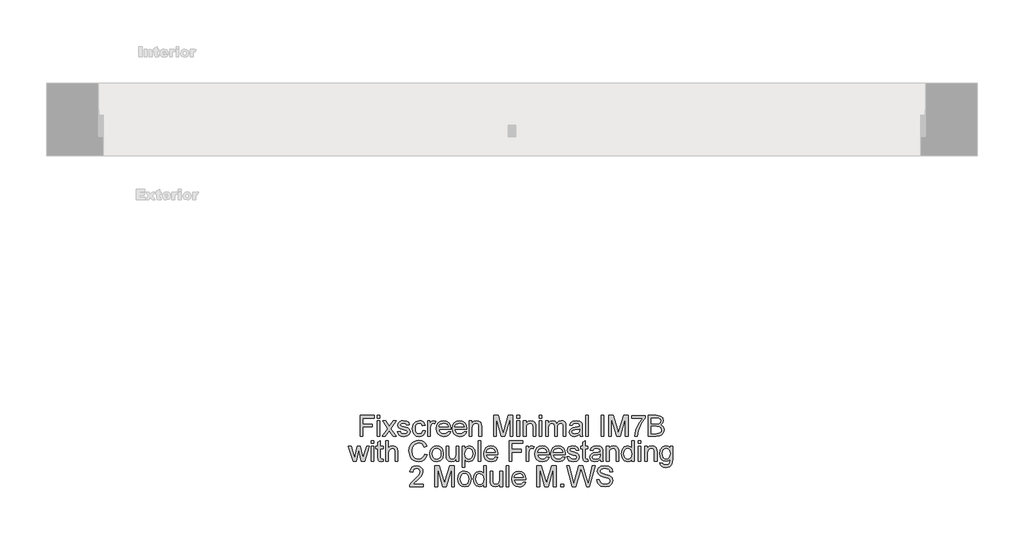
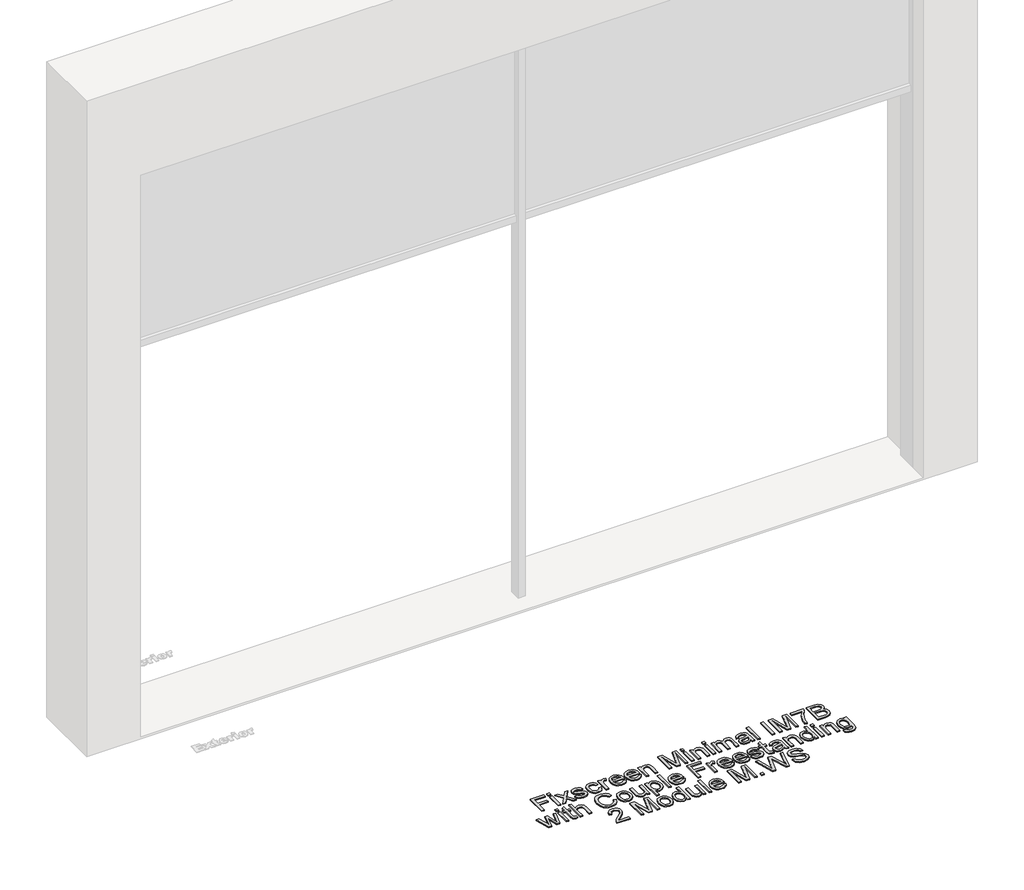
# One storey, part 2 of 14: 1 proxy.
"""IFC4 building model written with IfcOpenShell, lengths in millimetres."""

from ifc_helpers import new_model, si_unit, origin, origin_with_axes, place, context, project, spatial, polyline, outline, extrude, element, save

model = new_model("IFC4")

# Units and contexts
model_context = context("Model", 3, world=origin())
ifc_project = project(units=[si_unit("LENGTHUNIT", "METRE", prefix="MILLI")], contexts=[model_context])

# Site, building, storey
site = spatial("IfcSite", under=ifc_project)
building = spatial("IfcBuilding", under=site)
storey = spatial("IfcBuildingStorey", under=building, Name="Fixscreen Mini CF Overview Top", Elevation=0.0)

# Proxy
placement = place(None, origin())
element("IfcBuildingElementProxy", 1, Name="100mm Arial", ObjectType="100mm Arial", at=placement, inside=storey, context=model_context, shape_type="SweptSolid", body=[
    extrude(outline(polyline([(-8278.0016638, -2523.9021098), (-8278.0016638, -2423.4457997), (-8210.5075804, -2423.4457997), (-8210.5075804, -2436.0028384), (-8265.444625, -2436.0028384), (-8265.444625, -2465.8258055), (-8218.3557296, -2465.8258055), (-8218.3557296, -2478.3828443), (-8265.444625, -2478.3828443), (-8265.444625, -2523.9021098), (-8278.0016638, -2523.9021098)])), origin_with_axes(), (0.0, 0.0, 1.0), 5.0),
    extrude(outline(polyline([(-8194.811282, -2523.9021098), (-8194.811282, -2450.129507), (-8182.2542432, -2450.129507), (-8182.2542432, -2523.9021098), (-8194.811282, -2523.9021098)])), origin_with_axes(), (0.0, 0.0, 1.0), 5.0),
    extrude(outline(polyline([(-8194.811282, -2436.0028384), (-8194.811282, -2423.4457997), (-8182.2542432, -2423.4457997), (-8182.2542432, -2436.0028384), (-8194.811282, -2436.0028384)])), origin_with_axes(), (0.0, 0.0, 1.0), 5.0),
    extrude(outline(polyline([(-8171.2668343, -2523.9021098), (-8144.4359741, -2486.8196047), (-8169.6972044, -2450.129507), (-8154.5895171, -2450.129507), (-8142.4003604, -2467.7878428), (-8136.7104522, -2476.1265014), (-8131.7808334, -2469.3084217), (-8117.8994195, -2450.129507), (-8102.7917322, -2450.129507), (-8129.3282868, -2486.8196047), (-8103.7727509, -2523.9021098), (-8118.8804381, -2523.9021098), (-8134.2579055, -2501.6084609), (-8137.0783342, -2497.5372335), (-8156.159147, -2523.9021098), (-8171.2668343, -2523.9021098)])), origin_with_axes(), (0.0, 0.0, 1.0), 5.0),
    extrude(outline(polyline([(-8097.4942315, -2501.927292), (-8084.9371927, -2500.3576621), (-8079.1246572, -2509.6773393), (-8065.807329, -2512.9147009), (-8053.0050355, -2509.9471195), (-8048.8357063, -2502.981887), (-8053.029561, -2497.3410298), (-8065.9544818, -2493.7603117), (-8084.8636163, -2487.6166824), (-8093.1164358, -2480.4429835), (-8095.9246016, -2470.3139659), (-8093.6682587, -2460.9575004), (-8087.5123667, -2453.808327), (-8079.5293274, -2450.0927188), (-8068.7258595, -2448.5598772), (-8053.4464939, -2451.0246866), (-8043.7344093, -2457.6956134), (-8039.4179272, -2468.9650652), (-8051.974966, -2470.534695), (-8056.6961182, -2463.6062508), (-8067.7448408, -2461.116916), (-8079.7623193, -2463.4958862), (-8083.3675629, -2469.0386416), (-8081.8715094, -2472.6929361), (-8077.1871454, -2475.4643138), (-8066.3714147, -2478.1375896), (-8047.9405267, -2484.048227), (-8039.381139, -2490.7436793), (-8036.2786675, -2501.6575118), (-8039.9206992, -2513.6749903), (-8050.4298616, -2522.3937936), (-8065.9790072, -2525.4717397), (-8078.6402792, -2523.9879489), (-8087.8802487, -2519.5365768), (-8094.0484035, -2512.1666742), (-8097.4942315, -2501.927292)])), origin_with_axes(), (0.0, 0.0, 1.0), 5.0),
    extrude(outline(polyline([(-7975.0631035, -2497.2184024), (-7962.5060647, -2498.7880323), (-7966.0070751, -2509.9563165), (-7972.5860314, -2518.3961426), (-7981.6236657, -2523.7028404), (-7992.5007101, -2525.4717397), (-8005.8578922, -2523.0038646), (-8016.3026752, -2515.6002395), (-8023.0441127, -2503.5858266), (-8025.2912586, -2487.2855886), (-8021.4530231, -2466.4266794), (-8009.7543756, -2453.0235121), (-7992.6723883, -2448.5598772), (-7982.0620585, -2450.0927188), (-7973.5793128, -2454.6912438), (-7967.4939314, -2462.1101974), (-7964.0756946, -2472.1043249), (-7976.6327333, -2473.6739547), (-7982.4575316, -2464.2684384), (-7992.5742865, -2461.116916), (-8000.6891501, -2462.6681517), (-8007.1301507, -2467.321859), (-8011.3332025, -2475.3294237), (-8012.7342198, -2486.942232), (-8011.3638594, -2498.7113902), (-8007.2527781, -2506.7465461), (-8000.9282734, -2511.3726622), (-7992.917643, -2512.9147009), (-7981.0841055, -2509.0642027), (-7975.0631035, -2497.2184024)])), origin_with_axes(), (0.0, 0.0, 1.0), 5.0),
    extrude(outline(polyline([(-7951.5186558, -2523.9021098), (-7951.5186558, -2450.129507), (-7940.5312469, -2450.129507), (-7940.5312469, -2461.0433396), (-7932.7321486, -2450.9878984), (-7924.8839994, -2448.5598772), (-7912.2779097, -2452.4349009), (-7916.4717644, -2463.6920899), (-7925.3009323, -2461.116916), (-7932.4010548, -2463.5939881), (-7936.9260033, -2470.4611186), (-7938.961617, -2485.1273475), (-7938.961617, -2523.9021098), (-7951.5186558, -2523.9021098)])), origin_with_axes(), (0.0, 0.0, 1.0), 5.0),
    extrude(outline(polyline([(-7852.7791283, -2501.927292), (-7840.4673442, -2503.4969218), (-7844.9033879, -2512.7736795), (-7851.9820506, -2519.7082551), (-7861.5439168, -2524.0308685), (-7873.429571, -2525.4717397), (-7888.1632449, -2522.9854705), (-7899.5001417, -2515.5266631), (-7906.7290229, -2503.5796953), (-7909.13865, -2487.6289451), (-7906.7044974, -2471.1417003), (-7899.4020398, -2458.8115221), (-7888.2184272, -2451.1227884), (-7874.1408095, -2448.5598772), (-7860.5015845, -2451.1166571), (-7849.6030804, -2458.7869967), (-7842.4569727, -2471.0926494), (-7840.0749367, -2487.5553687), (-7840.1485131, -2490.939883), (-7896.5816112, -2490.939883), (-7894.4080417, -2500.339268), (-7889.3588614, -2507.2493182), (-7882.0717322, -2511.4983552), (-7873.1843163, -2512.9147009), (-7860.8725322, -2510.290476), (-7852.7791283, -2501.927292)]), holes=[polyline([(-7896.5816112, -2478.3828443), (-7852.6319755, -2478.3828443), (-7857.6596961, -2467.0030279), (-7864.9805478, -2462.588444), (-7874.1898604, -2461.116916), (-7889.653167, -2465.8135428), (-7894.5184063, -2471.3041816), (-7896.5816112, -2478.3828443)])]), origin_with_axes(), (0.0, 0.0, 1.0), 5.0),
    extrude(outline(polyline([(-7775.8672658, -2501.927292), (-7763.5554817, -2503.4969218), (-7767.9915255, -2512.7736795), (-7775.0701882, -2519.7082551), (-7784.6320544, -2524.0308685), (-7796.5177085, -2525.4717397), (-7811.2513824, -2522.9854705), (-7822.5882792, -2515.5266631), (-7829.8171604, -2503.5796953), (-7832.2267875, -2487.6289451), (-7829.792635, -2471.1417003), (-7822.4901774, -2458.8115221), (-7811.3065647, -2451.1227884), (-7797.228947, -2448.5598772), (-7783.5897221, -2451.1166571), (-7772.691218, -2458.7869967), (-7765.5451102, -2471.0926494), (-7763.1630743, -2487.5553687), (-7763.2366507, -2490.939883), (-7819.6697487, -2490.939883), (-7817.4961793, -2500.339268), (-7812.4469989, -2507.2493182), (-7805.1598697, -2511.4983552), (-7796.2724538, -2512.9147009), (-7783.9606697, -2510.290476), (-7775.8672658, -2501.927292)]), holes=[polyline([(-7819.6697487, -2478.3828443), (-7775.720113, -2478.3828443), (-7780.7478336, -2467.0030279), (-7788.0686854, -2462.588444), (-7797.277998, -2461.116916), (-7812.7413045, -2465.8135428), (-7817.6065439, -2471.3041816), (-7819.6697487, -2478.3828443)])]), origin_with_axes(), (0.0, 0.0, 1.0), 5.0),
    extrude(outline(polyline([(-7750.6060355, -2523.9021098), (-7750.6060355, -2450.129507), (-7738.0489967, -2450.129507), (-7738.0489967, -2460.4302029), (-7728.4472767, -2451.5274586), (-7715.3384149, -2448.5598772), (-7703.4803519, -2450.9511102), (-7695.386948, -2457.2296296), (-7691.6222889, -2466.4634676), (-7690.9601014, -2478.6035735), (-7690.9601014, -2523.9021098), (-7703.5171401, -2523.9021098), (-7703.5171401, -2480.2958307), (-7704.9641426, -2469.1857944), (-7710.0777024, -2463.3119452), (-7718.6984038, -2461.116916), (-7732.3223003, -2466.0465347), (-7736.6173226, -2473.1895768), (-7738.0489967, -2484.7594655), (-7738.0489967, -2523.9021098), (-7750.6060355, -2523.9021098)])), origin_with_axes(), (0.0, 0.0, 1.0), 5.0),
    extrude(outline(polyline([(-7632.8837971, -2523.9021098), (-7632.8837971, -2423.4457997), (-7611.2768612, -2423.4457997), (-7590.7245204, -2494.250821), (-7586.5797166, -2509.0396772), (-7582.0915563, -2493.0245477), (-7561.882572, -2423.4457997), (-7540.2756361, -2423.4457997), (-7540.2756361, -2523.9021098), (-7552.8326749, -2523.9021098), (-7552.8326749, -2436.0028384), (-7578.0693798, -2523.9021098), (-7595.0900534, -2523.9021098), (-7620.3267583, -2436.0028384), (-7620.3267583, -2523.9021098), (-7632.8837971, -2523.9021098)])), origin_with_axes(), (0.0, 0.0, 1.0), 5.0),
    extrude(outline(polyline([(-7519.8704481, -2436.0028384), (-7519.8704481, -2423.4457997), (-7507.3134094, -2423.4457997), (-7507.3134094, -2436.0028384), (-7519.8704481, -2436.0028384)])), origin_with_axes(), (0.0, 0.0, 1.0), 5.0),
    extrude(outline(polyline([(-7519.8704481, -2523.9021098), (-7519.8704481, -2450.129507), (-7507.3134094, -2450.129507), (-7507.3134094, -2523.9021098), (-7519.8704481, -2523.9021098)])), origin_with_axes(), (0.0, 0.0, 1.0), 5.0),
    extrude(outline(polyline([(-7488.4778512, -2523.9021098), (-7488.4778512, -2450.129507), (-7475.9208124, -2450.129507), (-7475.9208124, -2460.4302029), (-7466.3190924, -2451.5274586), (-7453.2102306, -2448.5598772), (-7441.3521676, -2450.9511102), (-7433.2587637, -2457.2296296), (-7429.4941047, -2466.4634676), (-7428.8319171, -2478.6035735), (-7428.8319171, -2523.9021098), (-7441.3889558, -2523.9021098), (-7441.3889558, -2480.2958307), (-7442.8359583, -2469.1857944), (-7447.9495181, -2463.3119452), (-7456.5702195, -2461.116916), (-7470.1941161, -2466.0465347), (-7474.4891383, -2473.1895768), (-7475.9208124, -2484.7594655), (-7475.9208124, -2523.9021098), (-7488.4778512, -2523.9021098)])), origin_with_axes(), (0.0, 0.0, 1.0), 5.0),
    extrude(outline(polyline([(-7411.5659888, -2523.9021098), (-7411.5659888, -2450.129507), (-7399.00895, -2450.129507), (-7399.00895, -2523.9021098), (-7411.5659888, -2523.9021098)])), origin_with_axes(), (0.0, 0.0, 1.0), 5.0),
    extrude(outline(polyline([(-7411.5659888, -2436.0028384), (-7411.5659888, -2423.4457997), (-7399.00895, -2423.4457997), (-7399.00895, -2436.0028384), (-7411.5659888, -2436.0028384)])), origin_with_axes(), (0.0, 0.0, 1.0), 5.0),
    extrude(outline(polyline([(-7380.1733918, -2523.9021098), (-7380.1733918, -2450.129507), (-7367.6163531, -2450.129507), (-7367.6163531, -2462.2696129), (-7358.9833889, -2452.3245363), (-7346.6961303, -2448.5598772), (-7334.114566, -2452.3981127), (-7327.1983845, -2463.1525297), (-7317.4004607, -2452.2080403), (-7305.027363, -2448.5598772), (-7295.5881241, -2450.0773904), (-7288.6075632, -2454.6299301), (-7284.2941468, -2462.3401236), (-7282.8563414, -2473.3305982), (-7282.8563414, -2523.9021098), (-7295.4133801, -2523.9021098), (-7295.4133801, -2478.7262008), (-7296.5783398, -2468.2415639), (-7300.79672, -2463.0789533), (-7307.9704189, -2461.116916), (-7320.3189912, -2466.1446366), (-7324.0070082, -2472.6868047), (-7325.2363472, -2482.257868), (-7325.2363472, -2523.9021098), (-7337.793386, -2523.9021098), (-7337.793386, -2477.3282492), (-7340.6996538, -2465.1636179), (-7350.2277974, -2461.116916), (-7359.5229492, -2463.8147173), (-7365.7033667, -2471.7119174), (-7367.6163531, -2486.6969774), (-7367.6163531, -2523.9021098), (-7380.1733918, -2523.9021098)])), origin_with_axes(), (0.0, 0.0, 1.0), 5.0),
    extrude(outline(polyline([(-7216.9318878, -2514.4843307), (-7229.1087819, -2522.9946676), (-7242.5610002, -2525.4717397), (-7253.0548341, -2523.9818176), (-7260.7956844, -2519.5120513), (-7265.5689533, -2512.7246285), (-7267.1600429, -2504.2817367), (-7264.7565472, -2494.3489229), (-7258.4412396, -2487.1384358), (-7249.6488599, -2483.0181574), (-7238.7840784, -2481.1296965), (-7217.0054642, -2476.8132144), (-7216.9318878, -2474.0173113), (-7220.3899786, -2464.746685), (-7234.2713925, -2461.116916), (-7246.9755841, -2463.5326744), (-7253.0333743, -2472.1043249), (-7265.5904131, -2470.534695), (-7260.1580223, -2458.2719619), (-7249.2196643, -2451.0860002), (-7232.6527118, -2448.5598772), (-7217.4346599, -2450.7916946), (-7208.8384839, -2456.3957637), (-7204.9879857, -2464.9183633), (-7204.3748491, -2475.9057722), (-7204.3748491, -2491.5284942), (-7203.7371869, -2513.3438966), (-7201.2355894, -2523.9021098), (-7213.7926281, -2523.9021098), (-7216.9318878, -2514.4843307)]), holes=[polyline([(-7216.9318878, -2489.3702532), (-7237.189923, -2493.2207514), (-7247.993391, -2495.2563651), (-7252.8862215, -2498.5673031), (-7254.6030041, -2503.39882), (-7250.8628705, -2510.1923741), (-7239.8877243, -2512.9147009), (-7227.1835328, -2509.9103313), (-7218.992027, -2502.6385305), (-7217.0054642, -2492.9264458), (-7216.9318878, -2489.3702532)])]), origin_with_axes(), (0.0, 0.0, 1.0), 5.0),
    extrude(outline(polyline([(-7187.1089208, -2523.9021098), (-7187.1089208, -2423.4457997), (-7174.551882, -2423.4457997), (-7174.551882, -2523.9021098), (-7187.1089208, -2523.9021098)])), origin_with_axes(), (0.0, 0.0, 1.0), 5.0),
    extrude(outline(polyline([(-7113.336318, -2523.9021098), (-7113.336318, -2423.4457997), (-7100.7792792, -2423.4457997), (-7100.7792792, -2523.9021098), (-7113.336318, -2523.9021098)])), origin_with_axes(), (0.0, 0.0, 1.0), 5.0),
    extrude(outline(polyline([(-7075.6652017, -2523.9021098), (-7075.6652017, -2423.4457997), (-7054.0582658, -2423.4457997), (-7033.505925, -2494.250821), (-7029.3611212, -2509.0396772), (-7024.8729609, -2493.0245477), (-7004.6639766, -2423.4457997), (-6983.0570408, -2423.4457997), (-6983.0570408, -2523.9021098), (-6995.6140795, -2523.9021098), (-6995.6140795, -2436.0028384), (-7020.8507844, -2523.9021098), (-7037.8714581, -2523.9021098), (-7063.1081629, -2436.0028384), (-7063.1081629, -2523.9021098), (-7075.6652017, -2523.9021098)])), origin_with_axes(), (0.0, 0.0, 1.0), 5.0),
    extrude(outline(polyline([(-6965.7911125, -2437.5724683), (-6965.7911125, -2425.0154295), (-6899.8666589, -2425.0154295), (-6899.8666589, -2435.1689726), (-6918.567327, -2462.1837738), (-6932.8779366, -2496.6052658), (-6937.5377752, -2523.9021098), (-6950.094814, -2523.9021098), (-6945.1038816, -2495.5751962), (-6931.4064087, -2463.5571999), (-6912.4236977, -2437.5724683), (-6965.7911125, -2437.5724683)])), origin_with_axes(), (0.0, 0.0, 1.0), 5.0),
    extrude(outline(polyline([(-6884.1703605, -2523.9021098), (-6884.1703605, -2423.4457997), (-6845.8370566, -2423.4457997), (-6827.0628121, -2426.4011184), (-6815.9773013, -2435.4878036), (-6811.9673875, -2448.339148), (-6815.3396392, -2460.0745837), (-6825.5299704, -2468.9650652), (-6813.1568727, -2478.3337933), (-6808.8281279, -2493.9565154), (-6811.7834466, -2507.4577846), (-6819.1042983, -2517.0717674), (-6830.0303935, -2522.1730644), (-6846.1313622, -2523.9021098), (-6884.1703605, -2523.9021098)]), holes=[polyline([(-6871.6133217, -2464.2561757), (-6848.6820107, -2464.2561757), (-6835.291106, -2463.1770551), (-6827.2344903, -2458.5294793), (-6824.5244263, -2450.3502362), (-6827.0505494, -2442.1587305), (-6834.2855619, -2437.3149509), (-6850.4233188, -2436.0028384), (-6871.6133217, -2436.0028384), (-6871.6133217, -2464.2561757)]), polyline([(-6871.6133217, -2511.345071), (-6845.861582, -2511.345071), (-6836.5419048, -2510.8545617), (-6828.6569674, -2508.1199722), (-6823.4330431, -2502.5404286), (-6821.3851666, -2494.0791427), (-6823.7886623, -2484.3180071), (-6831.5754979, -2478.4932089), (-6847.0878554, -2476.8132144), (-6871.6133217, -2476.8132144), (-6871.6133217, -2511.345071)])]), origin_with_axes(), (0.0, 0.0, 1.0), 5.0),
    extrude(outline(polyline([(-8312.0675365, -2645.8769277), (-8334.5083383, -2572.1043249), (-8321.4607902, -2572.1043249), (-8308.7320731, -2615.1465183), (-8304.9306258, -2630.5239857), (-8301.8158916, -2615.7106041), (-8291.686874, -2572.1043249), (-8276.7263395, -2572.1043249), (-8266.6463729, -2615.5879767), (-8263.8749952, -2629.0034068), (-8259.9018696, -2614.8522127), (-8247.1486271, -2572.1043249), (-8234.0520281, -2572.1043249), (-8256.6645081, -2645.8769277), (-8271.8457717, -2645.8769277), (-8281.48428, -2602.614005), (-8284.2801832, -2589.1249985), (-8296.7145946, -2645.8769277), (-8312.0675365, -2645.8769277)])), origin_with_axes(), (0.0, 0.0, 1.0), 5.0),
    extrude(outline(polyline([(-8225.419064, -2645.8769277), (-8225.419064, -2572.1043249), (-8212.8620252, -2572.1043249), (-8212.8620252, -2645.8769277), (-8225.419064, -2645.8769277)])), origin_with_axes(), (0.0, 0.0, 1.0), 5.0),
    extrude(outline(polyline([(-8225.419064, -2557.9776563), (-8225.419064, -2545.4206175), (-8212.8620252, -2545.4206175), (-8212.8620252, -2557.9776563), (-8225.419064, -2557.9776563)])), origin_with_axes(), (0.0, 0.0, 1.0), 5.0),
    extrude(outline(polyline([(-8167.3427596, -2635.4045535), (-8165.7731298, -2646.2448097), (-8175.1663834, -2647.4465575), (-8185.6878085, -2645.3618929), (-8190.9362583, -2639.8927139), (-8192.4568372, -2625.6434179), (-8192.4568372, -2584.6613637), (-8201.8746163, -2584.6613637), (-8201.8746163, -2572.1043249), (-8192.4568372, -2572.1043249), (-8192.4568372, -2554.176209), (-8179.8997984, -2546.7940436), (-8179.8997984, -2572.1043249), (-8167.3427596, -2572.1043249), (-8167.3427596, -2584.6613637), (-8179.8997984, -2584.6613637), (-8179.8997984, -2625.2755359), (-8179.2376108, -2631.750259), (-8177.0916325, -2634.0433901), (-8172.8119386, -2634.8895187), (-8167.3427596, -2635.4045535)])), origin_with_axes(), (0.0, 0.0, 1.0), 5.0),
    extrude(outline(polyline([(-8154.7857209, -2645.8769277), (-8154.7857209, -2545.4206175), (-8142.2286821, -2545.4206175), (-8142.2286821, -2582.3559698), (-8132.4368897, -2573.4900137), (-8120.3764916, -2570.534695), (-8106.2743484, -2573.7597939), (-8097.7149607, -2582.6748009), (-8095.1397867, -2599.1804397), (-8095.1397867, -2645.8769277), (-8107.6968255, -2645.8769277), (-8107.6968255, -2600.4802895), (-8111.6944765, -2587.2365376), (-8123.025242, -2583.0917338), (-8133.3136751, -2585.887637), (-8140.1808057, -2593.4660061), (-8142.2286821, -2606.6852324), (-8142.2286821, -2645.8769277), (-8154.7857209, -2645.8769277)])), origin_with_axes(), (0.0, 0.0, 1.0), 5.0),
    extrude(outline(polyline([(-7966.4301393, -2610.1678487), (-7953.8731006, -2613.4052102), (-7959.667242, -2628.0377166), (-7968.7600586, -2638.7277542), (-7980.7039608, -2645.2668567), (-7995.0513586, -2647.4465575), (-8009.6164199, -2645.7972199), (-8021.183243, -2640.8492071), (-8030.049199, -2632.7741973), (-8036.5116594, -2621.7438688), (-8041.772372, -2594.8884831), (-8040.2855156, -2580.2406484), (-8035.8249464, -2567.5916391), (-8028.6236563, -2557.3430598), (-8018.9146373, -2549.8965151), (-8007.3999309, -2545.3623695), (-7994.7815784, -2543.8509877), (-7981.0135948, -2545.8068936), (-7969.6307127, -2551.6746114), (-7960.9885515, -2561.0923905), (-7955.4427304, -2573.6984802), (-7967.9997692, -2576.6905871), (-7978.3004651, -2561.251806), (-7995.2720878, -2556.4080264), (-8014.9169863, -2561.7791036), (-8026.0147598, -2576.2000778), (-8029.2153332, -2594.8639577), (-8025.4261486, -2616.495419), (-8013.6293993, -2630.3155193), (-7996.3021574, -2634.8895187), (-7985.8205862, -2633.3321516), (-7977.0864545, -2628.6600503), (-7970.4921697, -2620.9222657), (-7966.4301393, -2610.1678487)])), origin_with_axes(), (0.0, 0.0, 1.0), 5.0),
    extrude(outline(polyline([(-7941.3160618, -2608.9906263), (-7938.5998664, -2591.2035318), (-7930.4512802, -2578.7016753), (-7920.3835763, -2572.5764401), (-7908.3293096, -2570.534695), (-7895.1376744, -2573.0209642), (-7884.6009209, -2580.4797717), (-7877.6939364, -2592.3225062), (-7875.3916083, -2607.9605567), (-7879.4628357, -2630.3032565), (-7891.3208987, -2642.9461344), (-7908.3293096, -2647.4465575), (-7921.6803603, -2644.9694854), (-7932.2048511, -2637.5382691), (-7939.0382591, -2625.4472142), (-7941.3160618, -2608.9906263)]), holes=[polyline([(-7928.759023, -2608.9661008), (-7927.3058892, -2620.3305888), (-7922.9464875, -2628.4270584), (-7916.3859253, -2633.2739036), (-7908.3293096, -2634.8895187), (-7900.3094821, -2633.2647066), (-7893.7611826, -2628.3902702), (-7889.4017809, -2620.1865017), (-7887.948647, -2608.5736933), (-7889.410978, -2597.5402992), (-7893.7979708, -2589.5541942), (-7900.3554673, -2584.7073489), (-7908.3293096, -2583.0917338), (-7916.3859253, -2584.7012175), (-7922.9464875, -2589.5296687), (-7927.3058892, -2597.6077442), (-7928.759023, -2608.9661008)])]), origin_with_axes(), (0.0, 0.0, 1.0), 5.0),
    extrude(outline(polyline([(-7814.1760443, -2645.8769277), (-7814.1760443, -2633.1972616), (-7824.0107563, -2643.8842335), (-7836.8375752, -2647.4465575), (-7848.6465872, -2644.9449599), (-7856.7890421, -2638.6664406), (-7860.5291757, -2629.4203397), (-7861.2649397, -2617.7462178), (-7861.2649397, -2572.1043249), (-7848.7079009, -2572.1043249), (-7848.7079009, -2611.8355804), (-7847.9476114, -2624.6378738), (-7842.9812045, -2632.1549292), (-7833.6247391, -2634.8895187), (-7823.1401022, -2632.0936156), (-7816.211658, -2624.4784583), (-7814.1760443, -2610.4866797), (-7814.1760443, -2572.1043249), (-7801.6190055, -2572.1043249), (-7801.6190055, -2645.8769277), (-7814.1760443, -2645.8769277)])), origin_with_axes(), (0.0, 0.0, 1.0), 5.0),
    extrude(outline(polyline([(-7784.3530772, -2674.1302649), (-7784.3530772, -2572.1043249), (-7771.7960384, -2572.1043249), (-7771.7960384, -2584.416109), (-7763.1140233, -2574.0050485), (-7751.3908504, -2570.534695), (-7735.4738228, -2575.3907374), (-7725.075025, -2589.0759476), (-7721.5678834, -2608.4265406), (-7725.5287462, -2628.7704149), (-7737.0311899, -2642.6273034), (-7752.9114293, -2647.4465575), (-7763.8375246, -2644.2214587), (-7771.7960384, -2636.0667411), (-7771.7960384, -2674.1302649), (-7784.3530772, -2674.1302649)]), holes=[polyline([(-7771.7960384, -2609.5792375), (-7770.4379407, -2620.8364265), (-7766.3636476, -2628.7091012), (-7760.3518427, -2633.3444144), (-7753.1812095, -2634.8895187), (-7745.8940803, -2633.2892321), (-7739.7289912, -2628.488372), (-7735.5259394, -2620.3275231), (-7734.1249221, -2608.6472697), (-7735.4922169, -2597.4513944), (-7739.5941011, -2589.4683551), (-7745.596709, -2584.6858891), (-7752.6661747, -2583.0917338), (-7759.7632315, -2584.7870567), (-7765.9957656, -2589.8730253), (-7770.3459702, -2598.190224), (-7771.7960384, -2609.5792375)])]), origin_with_axes(), (0.0, 0.0, 1.0), 5.0),
    extrude(outline(polyline([(-7707.4412147, -2645.8769277), (-7707.4412147, -2545.4206175), (-7694.884176, -2545.4206175), (-7694.884176, -2645.8769277), (-7707.4412147, -2645.8769277)])), origin_with_axes(), (0.0, 0.0, 1.0), 5.0),
    extrude(outline(polyline([(-7624.3979857, -2623.9021098), (-7612.0862016, -2625.4717397), (-7616.5222453, -2634.7484973), (-7623.600908, -2641.6830729), (-7633.1627742, -2646.0056864), (-7645.0484284, -2647.4465575), (-7659.7821023, -2644.9602884), (-7671.1189991, -2637.5014809), (-7678.3478803, -2625.5545131), (-7680.7575074, -2609.6037629), (-7678.3233548, -2593.1165182), (-7671.0208972, -2580.78634), (-7659.8372846, -2573.0976063), (-7645.7596669, -2570.534695), (-7632.1204419, -2573.0914749), (-7621.2219378, -2580.7618145), (-7614.07583, -2593.0674673), (-7611.6937941, -2609.5301865), (-7611.7673705, -2612.9147009), (-7668.2004686, -2612.9147009), (-7666.0268991, -2622.3140859), (-7660.9777188, -2629.224136), (-7653.6905896, -2633.4731731), (-7644.8031737, -2634.8895187), (-7632.4913896, -2632.2652938), (-7624.3979857, -2623.9021098)]), holes=[polyline([(-7668.2004686, -2600.3576621), (-7624.2508329, -2600.3576621), (-7629.2785535, -2588.9778457), (-7636.5994052, -2584.5632618), (-7645.8087178, -2583.0917338), (-7661.2720243, -2587.7883606), (-7666.1372637, -2593.2789994), (-7668.2004686, -2600.3576621)])]), origin_with_axes(), (0.0, 0.0, 1.0), 5.0),
    extrude(outline(polyline([(-7558.3263794, -2645.8769277), (-7558.3263794, -2545.4206175), (-7490.832296, -2545.4206175), (-7490.832296, -2557.9776563), (-7545.7693406, -2557.9776563), (-7545.7693406, -2587.8006234), (-7498.6804452, -2587.8006234), (-7498.6804452, -2600.3576621), (-7545.7693406, -2600.3576621), (-7545.7693406, -2645.8769277), (-7558.3263794, -2645.8769277)])), origin_with_axes(), (0.0, 0.0, 1.0), 5.0),
    extrude(outline(polyline([(-7475.1359975, -2645.8769277), (-7475.1359975, -2572.1043249), (-7464.1485886, -2572.1043249), (-7464.1485886, -2583.0181574), (-7456.3494903, -2572.9627162), (-7448.5013411, -2570.534695), (-7435.8952514, -2574.4097187), (-7440.0891061, -2585.6669078), (-7448.918274, -2583.0917338), (-7456.0183965, -2585.5688059), (-7460.543345, -2592.4359365), (-7462.5789588, -2607.1021654), (-7462.5789588, -2645.8769277), (-7475.1359975, -2645.8769277)])), origin_with_axes(), (0.0, 0.0, 1.0), 5.0),
    extrude(outline(polyline([(-7376.39647, -2623.9021098), (-7364.0846859, -2625.4717397), (-7368.5207296, -2634.7484973), (-7375.5993924, -2641.6830729), (-7385.1612586, -2646.0056864), (-7397.0469127, -2647.4465575), (-7411.7805866, -2644.9602884), (-7423.1174834, -2637.5014809), (-7430.3463646, -2625.5545131), (-7432.7559917, -2609.6037629), (-7430.3218391, -2593.1165182), (-7423.0193815, -2580.78634), (-7411.8357689, -2573.0976063), (-7397.7581512, -2570.534695), (-7384.1189262, -2573.0914749), (-7373.2204221, -2580.7618145), (-7366.0743144, -2593.0674673), (-7363.6922784, -2609.5301865), (-7363.7658548, -2612.9147009), (-7420.1989529, -2612.9147009), (-7418.0253835, -2622.3140859), (-7412.9762031, -2629.224136), (-7405.6890739, -2633.4731731), (-7396.801658, -2634.8895187), (-7384.4898739, -2632.2652938), (-7376.39647, -2623.9021098)]), holes=[polyline([(-7420.1989529, -2600.3576621), (-7376.2493172, -2600.3576621), (-7381.2770378, -2588.9778457), (-7388.5978895, -2584.5632618), (-7397.8072021, -2583.0917338), (-7413.2705087, -2587.7883606), (-7418.1357481, -2593.2789994), (-7420.1989529, -2600.3576621)])]), origin_with_axes(), (0.0, 0.0, 1.0), 5.0),
    extrude(outline(polyline([(-7299.4846076, -2623.9021098), (-7287.1728235, -2625.4717397), (-7291.6088672, -2634.7484973), (-7298.6875299, -2641.6830729), (-7308.2493961, -2646.0056864), (-7320.1350502, -2647.4465575), (-7334.8687241, -2644.9602884), (-7346.2056209, -2637.5014809), (-7353.4345022, -2625.5545131), (-7355.8441292, -2609.6037629), (-7353.4099767, -2593.1165182), (-7346.1075191, -2580.78634), (-7334.9239064, -2573.0976063), (-7320.8462887, -2570.534695), (-7307.2070638, -2573.0914749), (-7296.3085597, -2580.7618145), (-7289.1624519, -2593.0674673), (-7286.780416, -2609.5301865), (-7286.8539924, -2612.9147009), (-7343.2870904, -2612.9147009), (-7341.113521, -2622.3140859), (-7336.0643406, -2629.224136), (-7328.7772114, -2633.4731731), (-7319.8897956, -2634.8895187), (-7307.5780115, -2632.2652938), (-7299.4846076, -2623.9021098)]), holes=[polyline([(-7343.2870904, -2600.3576621), (-7299.3374548, -2600.3576621), (-7304.3651754, -2588.9778457), (-7311.6860271, -2584.5632618), (-7320.8953397, -2583.0917338), (-7336.3586462, -2587.7883606), (-7341.2238856, -2593.2789994), (-7343.2870904, -2600.3576621)])]), origin_with_axes(), (0.0, 0.0, 1.0), 5.0),
    extrude(outline(polyline([(-7278.9322668, -2623.9021098), (-7266.375228, -2622.33248), (-7260.5626925, -2631.6521572), (-7247.2453642, -2634.8895187), (-7234.4430708, -2631.9219373), (-7230.2737415, -2624.9567049), (-7234.4675963, -2619.3158476), (-7247.392517, -2615.7351295), (-7266.3016516, -2609.5915002), (-7274.554471, -2602.4178013), (-7277.3626369, -2592.2887837), (-7275.106294, -2582.9323183), (-7268.950402, -2575.7831448), (-7260.9673627, -2572.0675367), (-7250.1638947, -2570.534695), (-7234.8845292, -2572.9995044), (-7225.1724445, -2579.6704313), (-7220.8559625, -2590.939883), (-7233.4130012, -2592.5095129), (-7238.1341535, -2585.5810687), (-7249.1828761, -2583.0917338), (-7261.2003546, -2585.4707041), (-7264.8055981, -2591.0134594), (-7263.3095447, -2594.6677539), (-7258.6251806, -2597.4391316), (-7247.80945, -2600.1124075), (-7229.378562, -2606.0230448), (-7220.8191743, -2612.7184972), (-7217.7167028, -2623.6323297), (-7221.3587345, -2635.6498082), (-7231.8678968, -2644.3686115), (-7247.4170425, -2647.4465575), (-7260.0783145, -2645.9627668), (-7269.318284, -2641.5113947), (-7275.4864387, -2634.141492), (-7278.9322668, -2623.9021098)])), origin_with_axes(), (0.0, 0.0, 1.0), 5.0),
    extrude(outline(polyline([(-7176.9063268, -2635.4045535), (-7175.3366969, -2646.2448097), (-7184.7299505, -2647.4465575), (-7195.2513756, -2645.3618929), (-7200.4998254, -2639.8927139), (-7202.0204043, -2625.6434179), (-7202.0204043, -2584.6613637), (-7211.4381834, -2584.6613637), (-7211.4381834, -2572.1043249), (-7202.0204043, -2572.1043249), (-7202.0204043, -2554.176209), (-7189.4633655, -2546.7940436), (-7189.4633655, -2572.1043249), (-7176.9063268, -2572.1043249), (-7176.9063268, -2584.6613637), (-7189.4633655, -2584.6613637), (-7189.4633655, -2625.2755359), (-7188.8011779, -2631.750259), (-7186.6551996, -2634.0433901), (-7182.3755058, -2634.8895187), (-7176.9063268, -2635.4045535)])), origin_with_axes(), (0.0, 0.0, 1.0), 5.0),
    extrude(outline(polyline([(-7117.2603926, -2636.4591486), (-7129.4372867, -2644.9694854), (-7142.8895049, -2647.4465575), (-7153.3833389, -2645.9566354), (-7161.1241892, -2641.4868692), (-7165.8974581, -2634.6994464), (-7167.4885477, -2626.2565546), (-7165.085052, -2616.3237407), (-7158.7697444, -2609.1132536), (-7149.9773647, -2604.9929753), (-7139.1125831, -2603.1045144), (-7117.333969, -2598.7880323), (-7117.2603926, -2595.9921291), (-7120.7184834, -2586.7215028), (-7134.5998973, -2583.0917338), (-7147.3040889, -2585.5074923), (-7153.3618791, -2594.0791427), (-7165.9189178, -2592.5095129), (-7160.486527, -2580.2467797), (-7149.5481691, -2573.0608181), (-7132.9812165, -2570.534695), (-7117.7631647, -2572.7665125), (-7109.1669887, -2578.3705815), (-7105.3164905, -2586.8931811), (-7104.7033538, -2597.88059), (-7104.7033538, -2613.5033121), (-7104.0656917, -2635.3187144), (-7101.5640942, -2645.8769277), (-7114.1211329, -2645.8769277), (-7117.2603926, -2636.4591486)]), holes=[polyline([(-7117.2603926, -2611.345071), (-7137.5184278, -2615.1955693), (-7148.3218957, -2617.231183), (-7153.2147263, -2620.5421209), (-7154.9315089, -2625.3736378), (-7151.1913753, -2632.167192), (-7140.2162291, -2634.8895187), (-7127.5120375, -2631.8851491), (-7119.3205318, -2624.6133483), (-7117.333969, -2614.9012637), (-7117.2603926, -2611.345071)])]), origin_with_axes(), (0.0, 0.0, 1.0), 5.0),
    extrude(outline(polyline([(-7087.4374255, -2645.8769277), (-7087.4374255, -2572.1043249), (-7074.8803868, -2572.1043249), (-7074.8803868, -2582.4050208), (-7065.2786667, -2573.5022765), (-7052.1698049, -2570.534695), (-7040.311742, -2572.925928), (-7032.2183381, -2579.2044474), (-7028.453679, -2588.4382855), (-7027.7914914, -2600.5783913), (-7027.7914914, -2645.8769277), (-7040.3485302, -2645.8769277), (-7040.3485302, -2602.2706485), (-7041.7955327, -2591.1606122), (-7046.9090924, -2585.2867631), (-7055.5297938, -2583.0917338), (-7069.1536904, -2588.0213526), (-7073.4487127, -2595.1643946), (-7074.8803868, -2606.7342834), (-7074.8803868, -2645.8769277), (-7087.4374255, -2645.8769277)])), origin_with_axes(), (0.0, 0.0, 1.0), 5.0),
    extrude(outline(polyline([(-6965.0062975, -2645.8769277), (-6965.0062975, -2634.0311274), (-6973.3142993, -2644.0927), (-6984.7983489, -2647.4465575), (-7000.3474945, -2642.5905152), (-7011.3349035, -2629.040195), (-7015.2344526, -2609.0642027), (-7011.6414718, -2589.0759476), (-7000.8747921, -2575.317161), (-6984.8473998, -2570.534695), (-6973.2713797, -2573.9559976), (-6965.0062975, -2582.8464792), (-6965.0062975, -2545.4206175), (-6952.4492588, -2545.4206175), (-6952.4492588, -2645.8769277), (-6965.0062975, -2645.8769277)]), holes=[polyline([(-7002.6774138, -2609.0151517), (-7001.2610682, -2620.3735083), (-6997.0120311, -2628.4515838), (-6990.837745, -2633.280035), (-6983.645652, -2634.8895187), (-6976.4566246, -2633.3536114), (-6970.4386883, -2628.7458894), (-6966.3643952, -2620.9805136), (-6965.0062975, -2609.9716449), (-6966.3889207, -2597.9357723), (-6970.5367902, -2589.5909824), (-6976.7080107, -2584.716546), (-6984.1606868, -2583.0917338), (-6991.4263562, -2584.6521666), (-6997.3799131, -2589.333465), (-7001.3530387, -2597.3747523), (-7002.6774138, -2609.0151517)])]), origin_with_axes(), (0.0, 0.0, 1.0), 5.0),
    extrude(outline(polyline([(-6933.6137006, -2645.8769277), (-6933.6137006, -2572.1043249), (-6921.0566619, -2572.1043249), (-6921.0566619, -2645.8769277), (-6933.6137006, -2645.8769277)])), origin_with_axes(), (0.0, 0.0, 1.0), 5.0),
    extrude(outline(polyline([(-6933.6137006, -2557.9776563), (-6933.6137006, -2545.4206175), (-6921.0566619, -2545.4206175), (-6921.0566619, -2557.9776563), (-6933.6137006, -2557.9776563)])), origin_with_axes(), (0.0, 0.0, 1.0), 5.0),
    extrude(outline(polyline([(-6902.2211037, -2645.8769277), (-6902.2211037, -2572.1043249), (-6889.6640649, -2572.1043249), (-6889.6640649, -2582.4050208), (-6880.0623449, -2573.5022765), (-6866.9534831, -2570.534695), (-6855.0954201, -2572.925928), (-6847.0020162, -2579.2044474), (-6843.2373571, -2588.4382855), (-6842.5751695, -2600.5783913), (-6842.5751695, -2645.8769277), (-6855.1322083, -2645.8769277), (-6855.1322083, -2602.2706485), (-6856.5792108, -2591.1606122), (-6861.6927706, -2585.2867631), (-6870.313472, -2583.0917338), (-6883.9373685, -2588.0213526), (-6888.2323908, -2595.1643946), (-6889.6640649, -2606.7342834), (-6889.6640649, -2645.8769277), (-6902.2211037, -2645.8769277)])), origin_with_axes(), (0.0, 0.0, 1.0), 5.0),
    extrude(outline(polyline([(-6828.4485009, -2652.155447), (-6815.8914622, -2653.7250769), (-6811.8202348, -2660.3469528), (-6799.631078, -2663.142856), (-6786.7797336, -2659.9790708), (-6780.648367, -2651.100852), (-6779.7899757, -2636.4591486), (-6788.6314063, -2643.5224829), (-6799.4103488, -2645.8769277), (-6812.3567293, -2643.1362068), (-6822.010566, -2634.9140442), (-6828.0162396, -2622.8597775), (-6830.0181308, -2608.6227443), (-6826.42515, -2589.1617867), (-6816.0263522, -2575.3907374), (-6800.0234854, -2570.534695), (-6788.8214787, -2573.2815473), (-6779.7899757, -2581.522104), (-6779.7899757, -2572.1043249), (-6767.2329369, -2572.1043249), (-6767.2329369, -2635.796961), (-6770.6665022, -2660.1875373), (-6781.5435465, -2671.5305655), (-6799.8763326, -2675.6998947), (-6811.5596517, -2674.2314324), (-6820.7597672, -2669.8260455), (-6826.6612076, -2662.4714713), (-6828.4485009, -2652.155447)]), holes=[polyline([(-6817.461092, -2607.764353), (-6816.1213884, -2619.2821251), (-6812.1022776, -2627.200785), (-6806.0598158, -2631.7901129), (-6798.6500593, -2633.3198889), (-6791.2954851, -2631.79931), (-6785.2223665, -2627.2375732), (-6781.1480734, -2619.4200808), (-6779.7899757, -2608.132235), (-6781.1879273, -2597.2459936), (-6785.381782, -2589.4070414), (-6791.5438055, -2584.6705607), (-6798.8462631, -2583.0917338), (-6806.0168963, -2584.6460352), (-6812.0287012, -2589.3089395), (-6816.1029943, -2597.0313958), (-6817.461092, -2607.764353)])]), origin_with_axes(), (0.0, 0.0, 1.0), 5.0),
    extrude(outline(polyline([(-7972.7086587, -2755.2947067), (-7972.7086587, -2767.8517455), (-8038.6331123, -2767.8517455), (-8037.2842116, -2759.1942559), (-8029.6567916, -2745.8646649), (-8013.9359677, -2731.3088007), (-7992.2554554, -2710.3885779), (-7986.8353273, -2696.1638074), (-7991.9488871, -2684.6491009), (-8005.3030035, -2679.9524741), (-8019.2212057, -2684.5387363), (-8024.5064437, -2697.2184024), (-8037.0634824, -2695.6487726), (-8034.0192589, -2683.5025354), (-8027.4372369, -2674.6304479), (-8017.6607729, -2669.2041885), (-8005.0332234, -2667.3954354), (-7992.3137034, -2669.4065236), (-7982.5556335, -2675.4397883), (-7976.3476248, -2684.4528972), (-7974.2782886, -2695.4035179), (-7976.510106, -2707.3106318), (-7983.9290596, -2719.6224159), (-8001.9184891, -2736.8270306), (-8016.3639888, -2748.9058228), (-8022.0293716, -2755.2947067), (-7972.7086587, -2755.2947067)])), origin_with_axes(), (0.0, 0.0, 1.0), 5.0),
    extrude(outline(polyline([(-7916.2019843, -2767.8517455), (-7916.2019843, -2667.3954354), (-7894.5950484, -2667.3954354), (-7874.0427076, -2738.2004567), (-7869.8979038, -2752.9893129), (-7865.4097435, -2736.9741834), (-7845.2007592, -2667.3954354), (-7823.5938234, -2667.3954354), (-7823.5938234, -2767.8517455), (-7836.1508621, -2767.8517455), (-7836.1508621, -2679.9524741), (-7861.387567, -2767.8517455), (-7878.4082406, -2767.8517455), (-7903.6449455, -2679.9524741), (-7903.6449455, -2767.8517455), (-7916.2019843, -2767.8517455)])), origin_with_axes(), (0.0, 0.0, 1.0), 5.0),
    extrude(outline(polyline([(-7806.327895, -2730.9654441), (-7803.6116996, -2713.1783497), (-7795.4631135, -2700.6764932), (-7785.3954095, -2694.551258), (-7773.3411428, -2692.5095129), (-7760.1495076, -2694.995782), (-7749.6127541, -2702.4545895), (-7742.7057697, -2714.2973241), (-7740.4034415, -2729.9353745), (-7744.4746689, -2752.2780744), (-7756.3327319, -2764.9209523), (-7773.3411428, -2769.4213754), (-7786.6921936, -2766.9443033), (-7797.2166843, -2759.5130869), (-7804.0500924, -2747.422032), (-7806.327895, -2730.9654441)]), holes=[polyline([(-7793.7708563, -2730.9409187), (-7792.3177224, -2742.3054066), (-7787.9583208, -2750.4018762), (-7781.3977585, -2755.2487215), (-7773.3411428, -2756.8643366), (-7765.3213153, -2755.2395244), (-7758.7730158, -2750.365088), (-7754.4136142, -2742.1613195), (-7752.9604803, -2730.5485112), (-7754.4228112, -2719.515117), (-7758.809804, -2711.529012), (-7765.3673006, -2706.6821668), (-7773.3411428, -2705.0665517), (-7781.3977585, -2706.6760354), (-7787.9583208, -2711.5044866), (-7792.3177224, -2719.5825621), (-7793.7708563, -2730.9409187)])]), origin_with_axes(), (0.0, 0.0, 1.0), 5.0),
    extrude(outline(polyline([(-7680.7575074, -2767.8517455), (-7680.7575074, -2756.0059453), (-7689.0655091, -2766.0675178), (-7700.5495587, -2769.4213754), (-7716.0987044, -2764.565333), (-7727.0861133, -2751.0150129), (-7730.9856624, -2731.0390205), (-7727.3926816, -2711.0507655), (-7716.6260019, -2697.2919788), (-7700.5986096, -2692.5095129), (-7689.0225895, -2695.9308154), (-7680.7575074, -2704.821297), (-7680.7575074, -2667.3954354), (-7668.2004686, -2667.3954354), (-7668.2004686, -2767.8517455), (-7680.7575074, -2767.8517455)]), holes=[polyline([(-7718.4286237, -2730.9899696), (-7717.012278, -2742.3483262), (-7712.7632409, -2750.4264017), (-7706.5889548, -2755.2548529), (-7699.3968618, -2756.8643366), (-7692.2078345, -2755.3284293), (-7686.1898982, -2750.7207073), (-7682.1156051, -2742.9553315), (-7680.7575074, -2731.9464628), (-7682.1401305, -2719.9105902), (-7686.288, -2711.5658002), (-7692.4592205, -2706.6913638), (-7699.9118966, -2705.0665517), (-7707.177566, -2706.6269845), (-7713.1311229, -2711.3082828), (-7717.1042485, -2719.3495701), (-7718.4286237, -2730.9899696)])]), origin_with_axes(), (0.0, 0.0, 1.0), 5.0),
    extrude(outline(polyline([(-7602.2760151, -2767.8517455), (-7602.2760151, -2755.1720794), (-7612.1107271, -2765.8590514), (-7624.937546, -2769.4213754), (-7636.746558, -2766.9197778), (-7644.8890128, -2760.6412584), (-7648.6291464, -2751.3951576), (-7649.3649104, -2739.7210356), (-7649.3649104, -2694.0791427), (-7636.8078717, -2694.0791427), (-7636.8078717, -2733.8103982), (-7636.0475822, -2746.6126917), (-7631.0811753, -2754.1297471), (-7621.7247099, -2756.8643366), (-7611.240073, -2754.0684334), (-7604.3116288, -2746.4532761), (-7602.2760151, -2732.4614976), (-7602.2760151, -2694.0791427), (-7589.7189763, -2694.0791427), (-7589.7189763, -2767.8517455), (-7602.2760151, -2767.8517455)])), origin_with_axes(), (0.0, 0.0, 1.0), 5.0),
    extrude(outline(polyline([(-7572.453048, -2767.8517455), (-7572.453048, -2667.3954354), (-7559.8960092, -2667.3954354), (-7559.8960092, -2767.8517455), (-7572.453048, -2767.8517455)])), origin_with_axes(), (0.0, 0.0, 1.0), 5.0),
    extrude(outline(polyline([(-7489.4098189, -2745.8769277), (-7477.0980348, -2747.4465575), (-7481.5340786, -2756.7233152), (-7488.6127413, -2763.6578908), (-7498.1746075, -2767.9805042), (-7510.0602616, -2769.4213754), (-7524.7939355, -2766.9351062), (-7536.1308323, -2759.4762987), (-7543.3597135, -2747.529331), (-7545.7693406, -2731.5785808), (-7543.3351881, -2715.091336), (-7536.0327305, -2702.7611578), (-7524.8491178, -2695.0724241), (-7510.7715001, -2692.5095129), (-7497.1322751, -2695.0662928), (-7486.233771, -2702.7366324), (-7479.0876633, -2715.0422851), (-7476.7056274, -2731.5050044), (-7476.7792038, -2734.8895187), (-7533.2123018, -2734.8895187), (-7531.0387324, -2744.2889037), (-7525.989552, -2751.1989539), (-7518.7024228, -2755.4479909), (-7509.8150069, -2756.8643366), (-7497.5032228, -2754.2401117), (-7489.4098189, -2745.8769277)]), holes=[polyline([(-7533.2123018, -2722.33248), (-7489.2626661, -2722.33248), (-7494.2903867, -2710.9526636), (-7501.6112384, -2706.5380796), (-7510.8205511, -2705.0665517), (-7526.2838576, -2709.7631785), (-7531.149097, -2715.2538172), (-7533.2123018, -2722.33248)])]), origin_with_axes(), (0.0, 0.0, 1.0), 5.0),
    extrude(outline(polyline([(-7423.3382126, -2767.8517455), (-7423.3382126, -2667.3954354), (-7401.7312768, -2667.3954354), (-7381.178936, -2738.2004567), (-7377.0341321, -2752.9893129), (-7372.5459718, -2736.9741834), (-7352.3369875, -2667.3954354), (-7330.7300517, -2667.3954354), (-7330.7300517, -2767.8517455), (-7343.2870904, -2767.8517455), (-7343.2870904, -2679.9524741), (-7368.5237953, -2767.8517455), (-7385.544469, -2767.8517455), (-7410.7811738, -2679.9524741), (-7410.7811738, -2767.8517455), (-7423.3382126, -2767.8517455)])), origin_with_axes(), (0.0, 0.0, 1.0), 5.0),
    extrude(outline(polyline([(-7307.185604, -2767.8517455), (-7307.185604, -2755.2947067), (-7294.6285652, -2755.2947067), (-7294.6285652, -2767.8517455), (-7307.185604, -2767.8517455)])), origin_with_axes(), (0.0, 0.0, 1.0), 5.0),
    extrude(outline(polyline([(-7251.5373209, -2767.8517455), (-7278.9322668, -2667.3954354), (-7265.9828205, -2667.3954354), (-7250.0903183, -2733.4179908), (-7245.1852251, -2753.7986533), (-7239.9367753, -2735.7724355), (-7220.0220966, -2667.3954354), (-7201.3582167, -2667.3954354), (-7186.8881916, -2716.9614028), (-7176.1215118, -2753.7986533), (-7171.3635714, -2734.0066019), (-7155.3239164, -2667.3954354), (-7142.3744702, -2667.3954354), (-7169.7939415, -2767.8517455), (-7183.2093716, -2767.8517455), (-7207.2933796, -2690.3512719), (-7210.6533685, -2679.5355412), (-7214.4302903, -2692.5585638), (-7236.3805827, -2767.8517455), (-7251.5373209, -2767.8517455)])), origin_with_axes(), (0.0, 0.0, 1.0), 5.0),
    extrude(outline(polyline([(-7134.5263209, -2733.3198889), (-7121.9692822, -2733.3198889), (-7117.9225802, -2745.8891904), (-7108.0388173, -2753.8354415), (-7092.9801809, -2756.8643366), (-7079.8590564, -2754.5712055), (-7071.3855078, -2748.2681606), (-7068.6018674, -2739.8436629), (-7070.686532, -2732.0077764), (-7079.2213943, -2726.3056055), (-7097.5051295, -2721.5108768), (-7117.1868162, -2715.3181966), (-7127.8676568, -2705.9739939), (-7131.3870612, -2693.4905315), (-7127.033791, -2679.2780238), (-7114.3173367, -2669.2471081), (-7095.7025077, -2665.8258055), (-7075.83688, -2669.4065236), (-7062.5931281, -2679.9279487), (-7057.6144585, -2695.6487726), (-7070.1714972, -2695.6487726), (-7072.4768911, -2688.1562426), (-7077.2838825, -2682.7483773), (-7095.2119984, -2678.3828443), (-7113.1891652, -2682.6993264), (-7118.8300225, -2693.1226496), (-7114.8323714, -2701.8291901), (-7094.3290816, -2708.8434735), (-7072.1090091, -2715.1465183), (-7059.9566405, -2725.3245869), (-7056.0448286, -2739.5248319), (-7060.5452517, -2754.54668), (-7073.4946979, -2765.5095635), (-7092.4896716, -2769.4213754), (-7114.9182106, -2765.2029951), (-7129.1061929, -2752.4988036), (-7134.5263209, -2733.3198889)])), origin_with_axes(), (0.0, 0.0, 1.0), 5.0),
])

save(model, "model.ifc")
